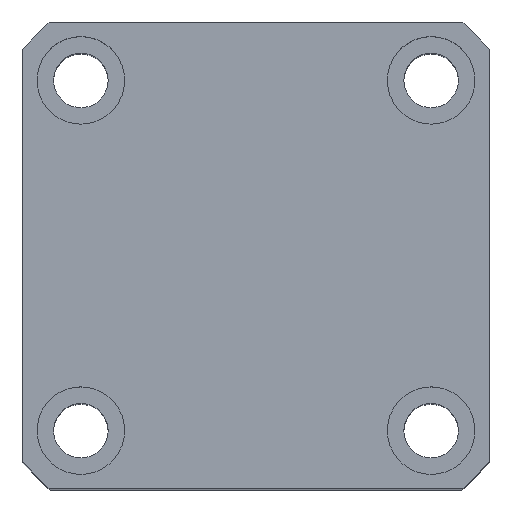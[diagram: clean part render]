
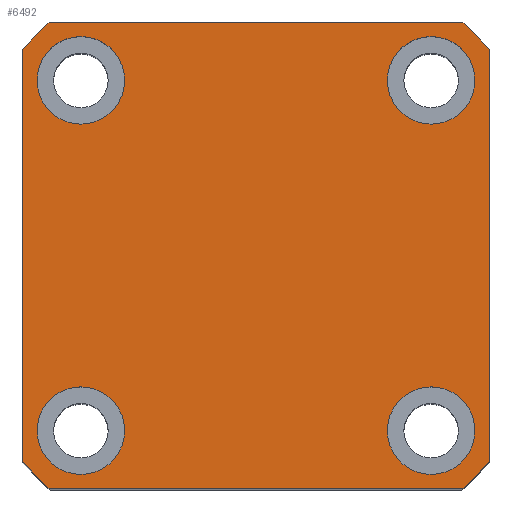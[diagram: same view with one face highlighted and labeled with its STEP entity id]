
A CAD part, top view. The second image highlights one B-rep face of the part: STEP entity #6492.
In plain terms, the highlighted planar face has unit normal (0, 0, 1) as drawn and (1, 0, 0) by its records, which use the part's own axes.
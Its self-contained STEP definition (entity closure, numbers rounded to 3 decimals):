
#77 = VERTEX_POINT ( 'NONE', #862 ) ;
#82 = AXIS2_PLACEMENT_3D ( 'NONE', #7383, #7386, #7394 ) ;
#106 = DIRECTION ( 'NONE',  ( 0., 0., -1. ) ) ;
#113 = DIRECTION ( 'NONE',  ( 1., 0., 0. ) ) ;
#114 = FACE_BOUND ( 'NONE', #1684, .T. ) ;
#116 = CARTESIAN_POINT ( 'NONE',  ( 60., 18., -18. ) ) ;
#164 = CIRCLE ( 'NONE', #879, 4.5 ) ;
#182 = ORIENTED_EDGE ( 'NONE', *, *, #6372, .F. ) ;
#215 = ORIENTED_EDGE ( 'NONE', *, *, #3340, .T. ) ;
#221 = AXIS2_PLACEMENT_3D ( 'NONE', #4085, #2222, #6523 ) ;
#237 = VERTEX_POINT ( 'NONE', #3591 ) ;
#272 = EDGE_CURVE ( 'NONE', #2304, #3873, #3880, .T. ) ;
#411 = EDGE_CURVE ( 'NONE', #2673, #1054, #5619, .T. ) ;
#484 = VECTOR ( 'NONE', #3885, 1000. ) ;
#516 = CARTESIAN_POINT ( 'NONE',  ( 60., 24., -24. ) ) ;
#557 = ORIENTED_EDGE ( 'NONE', *, *, #1620, .T. ) ;
#606 = EDGE_LOOP ( 'NONE', ( #4098, #938 ) ) ;
#670 = CARTESIAN_POINT ( 'NONE',  ( 60., 18., 22.5 ) ) ;
#756 = DIRECTION ( 'NONE',  ( 0., 0., -1. ) ) ;
#762 = DIRECTION ( 'NONE',  ( 1., 0., 0. ) ) ;
#764 = CARTESIAN_POINT ( 'NONE',  ( 60., 18., 18. ) ) ;
#792 = VERTEX_POINT ( 'NONE', #4966 ) ;
#840 = ORIENTED_EDGE ( 'NONE', *, *, #411, .F. ) ;
#862 = CARTESIAN_POINT ( 'NONE',  ( 60., 21.166, -24. ) ) ;
#874 = CARTESIAN_POINT ( 'NONE',  ( 60., 18., 18. ) ) ;
#879 = AXIS2_PLACEMENT_3D ( 'NONE', #7436, #7442, #7443 ) ;
#938 = ORIENTED_EDGE ( 'NONE', *, *, #1248, .F. ) ;
#948 = EDGE_CURVE ( 'NONE', #1054, #2673, #5142, .T. ) ;
#974 = EDGE_CURVE ( 'NONE', #3478, #237, #164, .T. ) ;
#976 = ORIENTED_EDGE ( 'NONE', *, *, #6322, .T. ) ;
#1046 = DIRECTION ( 'NONE',  ( 0., 0., 1. ) ) ;
#1054 = VERTEX_POINT ( 'NONE', #7717 ) ;
#1073 = CARTESIAN_POINT ( 'NONE',  ( 60., 24., 24. ) ) ;
#1095 = EDGE_LOOP ( 'NONE', ( #840, #4197 ) ) ;
#1152 = AXIS2_PLACEMENT_3D ( 'NONE', #5168, #5164, #5098 ) ;
#1248 = EDGE_CURVE ( 'NONE', #237, #3478, #3595, .T. ) ;
#1305 = DIRECTION ( 'NONE',  ( 0., 0., -1. ) ) ;
#1313 = DIRECTION ( 'NONE',  ( 1., 0., 0. ) ) ;
#1318 = CARTESIAN_POINT ( 'NONE',  ( 60., 18., -22.5 ) ) ;
#1324 = CARTESIAN_POINT ( 'NONE',  ( 60., 0., 0. ) ) ;
#1346 = EDGE_CURVE ( 'NONE', #3213, #792, #4838, .T. ) ;
#1403 = VERTEX_POINT ( 'NONE', #5170 ) ;
#1419 = AXIS2_PLACEMENT_3D ( 'NONE', #1324, #1313, #1305 ) ;
#1457 = EDGE_CURVE ( 'NONE', #1403, #3213, #4465, .T. ) ;
#1467 = CARTESIAN_POINT ( 'NONE',  ( 60., 18., -13.5 ) ) ;
#1514 = DIRECTION ( 'NONE',  ( 0., 0., -1. ) ) ;
#1620 = EDGE_CURVE ( 'NONE', #77, #5393, #3685, .T. ) ;
#1684 = EDGE_LOOP ( 'NONE', ( #4765, #182 ) ) ;
#1765 = FACE_BOUND ( 'NONE', #1095, .T. ) ;
#1788 = EDGE_CURVE ( 'NONE', #5061, #4673, #3107, .T. ) ;
#1998 = EDGE_LOOP ( 'NONE', ( #2735, #7815 ) ) ;
#2059 = AXIS2_PLACEMENT_3D ( 'NONE', #3718, #3720, #3726 ) ;
#2134 = CARTESIAN_POINT ( 'NONE',  ( 60., -24., -21.166 ) ) ;
#2214 = AXIS2_PLACEMENT_3D ( 'NONE', #5927, #2239, #6539 ) ;
#2222 = DIRECTION ( 'NONE',  ( 1., 0., 0. ) ) ;
#2239 = DIRECTION ( 'NONE',  ( 1., 0., 0. ) ) ;
#2276 = ORIENTED_EDGE ( 'NONE', *, *, #1346, .T. ) ;
#2304 = VERTEX_POINT ( 'NONE', #1318 ) ;
#2453 = EDGE_CURVE ( 'NONE', #3873, #2304, #6933, .T. ) ;
#2476 = ORIENTED_EDGE ( 'NONE', *, *, #5392, .T. ) ;
#2673 = VERTEX_POINT ( 'NONE', #6068 ) ;
#2679 = LINE ( 'NONE', #1073, #6144 ) ;
#2735 = ORIENTED_EDGE ( 'NONE', *, *, #272, .F. ) ;
#2875 = LINE ( 'NONE', #516, #5945 ) ;
#3107 = CIRCLE ( 'NONE', #3537, 4.5 ) ;
#3213 = VERTEX_POINT ( 'NONE', #4269 ) ;
#3255 = CIRCLE ( 'NONE', #2214, 32. ) ;
#3340 = EDGE_CURVE ( 'NONE', #5393, #1403, #2679, .T. ) ;
#3405 = VERTEX_POINT ( 'NONE', #7611 ) ;
#3447 = FACE_BOUND ( 'NONE', #606, .T. ) ;
#3457 = DIRECTION ( 'NONE',  ( 1., 0., 0. ) ) ;
#3476 = CARTESIAN_POINT ( 'NONE',  ( 60., -18., -22.5 ) ) ;
#3478 = VERTEX_POINT ( 'NONE', #3476 ) ;
#3537 = AXIS2_PLACEMENT_3D ( 'NONE', #764, #762, #756 ) ;
#3591 = CARTESIAN_POINT ( 'NONE',  ( 60., -18., -13.5 ) ) ;
#3595 = CIRCLE ( 'NONE', #1152, 4.5 ) ;
#3640 = CIRCLE ( 'NONE', #6591, 32. ) ;
#3685 = CIRCLE ( 'NONE', #1419, 32. ) ;
#3718 = CARTESIAN_POINT ( 'NONE',  ( 60., 18., -18. ) ) ;
#3720 = DIRECTION ( 'NONE',  ( 1., 0., 0. ) ) ;
#3726 = DIRECTION ( 'NONE',  ( 0., 0., -1. ) ) ;
#3830 = CIRCLE ( 'NONE', #5372, 4.5 ) ;
#3873 = VERTEX_POINT ( 'NONE', #1467 ) ;
#3880 = CIRCLE ( 'NONE', #2059, 4.5 ) ;
#3885 = DIRECTION ( 'NONE',  ( 0., 0., -1. ) ) ;
#4085 = CARTESIAN_POINT ( 'NONE',  ( 60., 0., 0. ) ) ;
#4098 = ORIENTED_EDGE ( 'NONE', *, *, #974, .F. ) ;
#4197 = ORIENTED_EDGE ( 'NONE', *, *, #948, .F. ) ;
#4269 = CARTESIAN_POINT ( 'NONE',  ( 60., 21.166, 24. ) ) ;
#4334 = ORIENTED_EDGE ( 'NONE', *, *, #6468, .T. ) ;
#4464 = EDGE_CURVE ( 'NONE', #5032, #77, #2875, .T. ) ;
#4465 = CIRCLE ( 'NONE', #4924, 32. ) ;
#4673 = VERTEX_POINT ( 'NONE', #670 ) ;
#4765 = ORIENTED_EDGE ( 'NONE', *, *, #1788, .F. ) ;
#4838 = LINE ( 'NONE', #5109, #6461 ) ;
#4888 = DIRECTION ( 'NONE',  ( 0., 1., 0. ) ) ;
#4924 = AXIS2_PLACEMENT_3D ( 'NONE', #5397, #5399, #5403 ) ;
#4966 = CARTESIAN_POINT ( 'NONE',  ( 60., -21.166, 24. ) ) ;
#4972 = AXIS2_PLACEMENT_3D ( 'NONE', #5782, #5787, #5790 ) ;
#5032 = VERTEX_POINT ( 'NONE', #5523 ) ;
#5061 = VERTEX_POINT ( 'NONE', #6103 ) ;
#5098 = DIRECTION ( 'NONE',  ( 0., 0., -1. ) ) ;
#5109 = CARTESIAN_POINT ( 'NONE',  ( 60., 24., 24. ) ) ;
#5121 = CARTESIAN_POINT ( 'NONE',  ( 60., -24., 24. ) ) ;
#5136 = DIRECTION ( 'NONE',  ( 0., -1., 0. ) ) ;
#5142 = CIRCLE ( 'NONE', #82, 4.5 ) ;
#5164 = DIRECTION ( 'NONE',  ( 1., 0., 0. ) ) ;
#5168 = CARTESIAN_POINT ( 'NONE',  ( 60., -18., -18. ) ) ;
#5170 = CARTESIAN_POINT ( 'NONE',  ( 60., 24., 21.166 ) ) ;
#5254 = DIRECTION ( 'NONE',  ( 1., 0., 0. ) ) ;
#5304 = CARTESIAN_POINT ( 'NONE',  ( 60., 24., -21.166 ) ) ;
#5372 = AXIS2_PLACEMENT_3D ( 'NONE', #874, #5254, #1514 ) ;
#5392 = EDGE_CURVE ( 'NONE', #792, #3405, #3255, .T. ) ;
#5393 = VERTEX_POINT ( 'NONE', #5304 ) ;
#5397 = CARTESIAN_POINT ( 'NONE',  ( 60., 0., 0. ) ) ;
#5399 = DIRECTION ( 'NONE',  ( 1., 0., 0. ) ) ;
#5403 = DIRECTION ( 'NONE',  ( 0., 0., -1. ) ) ;
#5523 = CARTESIAN_POINT ( 'NONE',  ( 60., -21.166, -24. ) ) ;
#5619 = CIRCLE ( 'NONE', #4972, 4.5 ) ;
#5782 = CARTESIAN_POINT ( 'NONE',  ( 60., -18., 18. ) ) ;
#5787 = DIRECTION ( 'NONE',  ( 1., 0., 0. ) ) ;
#5790 = DIRECTION ( 'NONE',  ( 0., 0., -1. ) ) ;
#5917 = PLANE ( 'NONE',  #221 ) ;
#5927 = CARTESIAN_POINT ( 'NONE',  ( 60., 0., 0. ) ) ;
#5945 = VECTOR ( 'NONE', #4888, 1000. ) ;
#6068 = CARTESIAN_POINT ( 'NONE',  ( 60., -18., 13.5 ) ) ;
#6103 = CARTESIAN_POINT ( 'NONE',  ( 60., 18., 13.5 ) ) ;
#6144 = VECTOR ( 'NONE', #1046, 1000. ) ;
#6322 = EDGE_CURVE ( 'NONE', #3405, #7968, #7070, .T. ) ;
#6372 = EDGE_CURVE ( 'NONE', #4673, #5061, #3830, .T. ) ;
#6461 = VECTOR ( 'NONE', #5136, 1000. ) ;
#6468 = EDGE_CURVE ( 'NONE', #7968, #5032, #3640, .T. ) ;
#6492 = ADVANCED_FACE ( 'NONE', ( #3447, #1765, #6691, #114, #6502 ), #5917, .T. ) ;
#6502 = FACE_OUTER_BOUND ( 'NONE', #7873, .T. ) ;
#6523 = DIRECTION ( 'NONE',  ( 0., 0., -1. ) ) ;
#6539 = DIRECTION ( 'NONE',  ( 0., 0., -1. ) ) ;
#6591 = AXIS2_PLACEMENT_3D ( 'NONE', #7108, #3457, #7726 ) ;
#6691 = FACE_BOUND ( 'NONE', #1998, .T. ) ;
#6768 = ORIENTED_EDGE ( 'NONE', *, *, #4464, .T. ) ;
#6802 = ORIENTED_EDGE ( 'NONE', *, *, #1457, .T. ) ;
#6933 = CIRCLE ( 'NONE', #7205, 4.5 ) ;
#7070 = LINE ( 'NONE', #5121, #484 ) ;
#7108 = CARTESIAN_POINT ( 'NONE',  ( 60., 0., 0. ) ) ;
#7205 = AXIS2_PLACEMENT_3D ( 'NONE', #116, #113, #106 ) ;
#7383 = CARTESIAN_POINT ( 'NONE',  ( 60., -18., 18. ) ) ;
#7386 = DIRECTION ( 'NONE',  ( 1., 0., 0. ) ) ;
#7394 = DIRECTION ( 'NONE',  ( 0., 0., -1. ) ) ;
#7436 = CARTESIAN_POINT ( 'NONE',  ( 60., -18., -18. ) ) ;
#7442 = DIRECTION ( 'NONE',  ( 1., 0., 0. ) ) ;
#7443 = DIRECTION ( 'NONE',  ( 0., 0., -1. ) ) ;
#7611 = CARTESIAN_POINT ( 'NONE',  ( 60., -24., 21.166 ) ) ;
#7717 = CARTESIAN_POINT ( 'NONE',  ( 60., -18., 22.5 ) ) ;
#7726 = DIRECTION ( 'NONE',  ( 0., 0., -1. ) ) ;
#7815 = ORIENTED_EDGE ( 'NONE', *, *, #2453, .F. ) ;
#7873 = EDGE_LOOP ( 'NONE', ( #6768, #557, #215, #6802, #2276, #2476, #976, #4334 ) ) ;
#7968 = VERTEX_POINT ( 'NONE', #2134 ) ;
